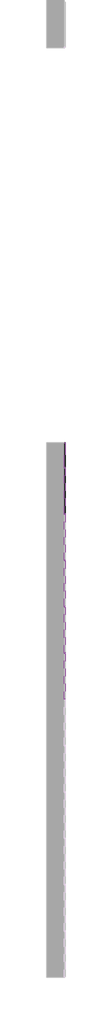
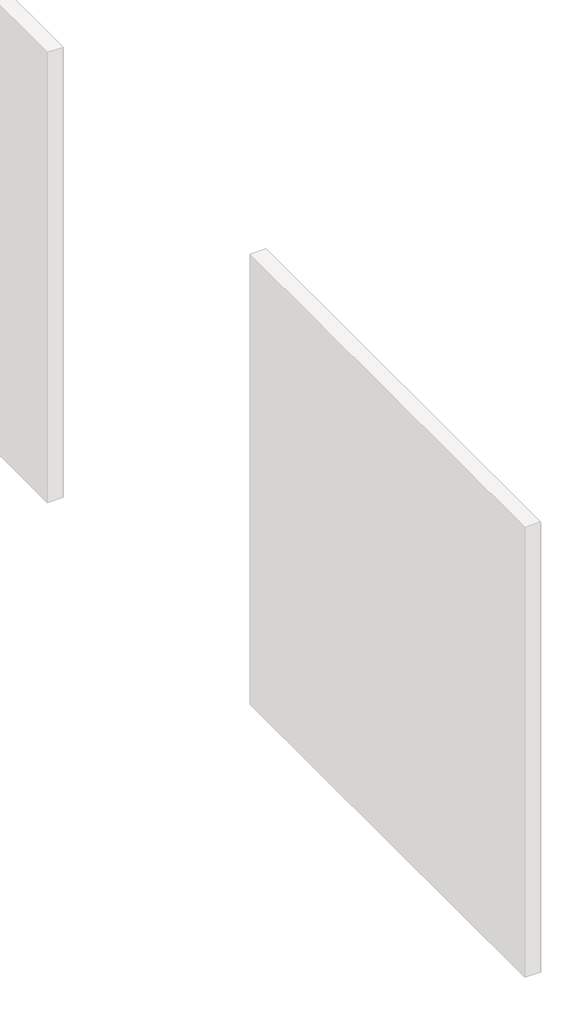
# One storey, part 7 of 45: 113 proxies.
"""IFC4 building model written with IfcOpenShell, lengths in millimetres."""

from ifc_helpers import new_model, si_unit, origin, place, context, project, spatial, transform, mapped, element, save
from components import generic_models_ab0f2c30, generic_models_8a1c671f

model = new_model("IFC4")

# Units and contexts
model_context = context("Model", 3, world=origin())
ifc_project = project(units=[si_unit("LENGTHUNIT", "METRE", prefix="MILLI")], contexts=[model_context])

# Site, building, storey
site = spatial("IfcSite", under=ifc_project)
building = spatial("IfcBuilding", under=site)
storey = spatial("IfcBuildingStorey", under=building, Name="PORTOBELLO - SHOWROOM", Elevation=0.0)

# Proxies
placement = place(None, origin())
generic_models_shape = generic_models_ab0f2c30(model_context)
element("IfcBuildingElementProxy", 1, Name="PBSHOP - HORIZONTES NEW YORK 6,5X23 : NEW YORK DOWNTOWN", ObjectType="PBSHOP - HORIZONTES NEW YORK 6,5X23 : NEW YORK DOWNTOWN", at=placement, inside=storey, context=model_context, shape_type="MappedRepresentation", body=[
    mapped(generic_models_shape, transform((63939.1036979, 8138.0036359, 34.5), x_axis=(0.0, 0.0, 1.0), y_axis=(0.0, -1.0, 0.0), z_axis=(1.0, 0.0, 0.0))),
])
element("IfcBuildingElementProxy", 2, Name="PBSHOP - HORIZONTES NEW YORK 6,5X23 : NEW YORK DOWNTOWN", ObjectType="PBSHOP - HORIZONTES NEW YORK 6,5X23 : NEW YORK DOWNTOWN", at=placement, inside=storey, context=model_context, shape_type="MappedRepresentation", body=[
    mapped(generic_models_shape, transform((63939.1036979, 8138.0036359, 103.5), x_axis=(0.0, 0.0, 1.0), y_axis=(0.0, -1.0, 0.0), z_axis=(1.0, 0.0, 0.0))),
])
element("IfcBuildingElementProxy", 3, Name="PBSHOP - HORIZONTES NEW YORK 6,5X23 : NEW YORK DOWNTOWN", ObjectType="PBSHOP - HORIZONTES NEW YORK 6,5X23 : NEW YORK DOWNTOWN", at=placement, inside=storey, context=model_context, shape_type="MappedRepresentation", body=[
    mapped(generic_models_shape, transform((63939.1036979, 8138.0036359, 172.5), x_axis=(0.0, 0.0, 1.0), y_axis=(0.0, -1.0, 0.0), z_axis=(1.0, 0.0, 0.0))),
])
element("IfcBuildingElementProxy", 4, Name="PBSHOP - HORIZONTES NEW YORK 6,5X23 : NEW YORK DOWNTOWN", ObjectType="PBSHOP - HORIZONTES NEW YORK 6,5X23 : NEW YORK DOWNTOWN", at=placement, inside=storey, context=model_context, shape_type="MappedRepresentation", body=[
    mapped(generic_models_shape, transform((63939.1036979, 8138.0036359, 241.5), x_axis=(0.0, 0.0, 1.0), y_axis=(0.0, -1.0, 0.0), z_axis=(1.0, 0.0, 0.0))),
])
element("IfcBuildingElementProxy", 5, Name="PBSHOP - HORIZONTES NEW YORK 6,5X23 : NEW YORK DOWNTOWN", ObjectType="PBSHOP - HORIZONTES NEW YORK 6,5X23 : NEW YORK DOWNTOWN", at=placement, inside=storey, context=model_context, shape_type="MappedRepresentation", body=[
    mapped(generic_models_shape, transform((63939.1036979, 8138.0036359, 310.5), x_axis=(0.0, 0.0, 1.0), y_axis=(0.0, -1.0, 0.0), z_axis=(1.0, 0.0, 0.0))),
])
element("IfcBuildingElementProxy", 6, Name="PBSHOP - HORIZONTES NEW YORK 6,5X23 : NEW YORK DOWNTOWN", ObjectType="PBSHOP - HORIZONTES NEW YORK 6,5X23 : NEW YORK DOWNTOWN", at=placement, inside=storey, context=model_context, shape_type="MappedRepresentation", body=[
    mapped(generic_models_shape, transform((63939.1036979, 8138.0036359, 379.5), x_axis=(0.0, 0.0, 1.0), y_axis=(0.0, -1.0, 0.0), z_axis=(1.0, 0.0, 0.0))),
])
element("IfcBuildingElementProxy", 7, Name="PBSHOP - HORIZONTES NEW YORK 6,5X23 : NEW YORK DOWNTOWN", ObjectType="PBSHOP - HORIZONTES NEW YORK 6,5X23 : NEW YORK DOWNTOWN", at=placement, inside=storey, context=model_context, shape_type="MappedRepresentation", body=[
    mapped(generic_models_shape, transform((63939.1036979, 8138.0036359, 448.5), x_axis=(0.0, 0.0, 1.0), y_axis=(0.0, -1.0, 0.0), z_axis=(1.0, 0.0, 0.0))),
])
element("IfcBuildingElementProxy", 8, Name="PBSHOP - HORIZONTES NEW YORK 6,5X23 : NEW YORK DOWNTOWN", ObjectType="PBSHOP - HORIZONTES NEW YORK 6,5X23 : NEW YORK DOWNTOWN", at=placement, inside=storey, context=model_context, shape_type="MappedRepresentation", body=[
    mapped(generic_models_shape, transform((63939.1036979, 8138.0036359, 517.5), x_axis=(0.0, 0.0, 1.0), y_axis=(0.0, -1.0, 0.0), z_axis=(1.0, 0.0, 0.0))),
])
element("IfcBuildingElementProxy", 9, Name="PBSHOP - HORIZONTES NEW YORK 6,5X23 : NEW YORK DOWNTOWN", ObjectType="PBSHOP - HORIZONTES NEW YORK 6,5X23 : NEW YORK DOWNTOWN", at=placement, inside=storey, context=model_context, shape_type="MappedRepresentation", body=[
    mapped(generic_models_shape, transform((63939.1036979, 8138.0036359, 586.5), x_axis=(0.0, 0.0, 1.0), y_axis=(0.0, -1.0, 0.0), z_axis=(1.0, 0.0, 0.0))),
])
element("IfcBuildingElementProxy", 10, Name="PBSHOP - HORIZONTES NEW YORK 6,5X23 : NEW YORK DOWNTOWN", ObjectType="PBSHOP - HORIZONTES NEW YORK 6,5X23 : NEW YORK DOWNTOWN", at=placement, inside=storey, context=model_context, shape_type="MappedRepresentation", body=[
    mapped(generic_models_shape, transform((63939.1036979, 8138.0036359, 655.5), x_axis=(0.0, 0.0, 1.0), y_axis=(0.0, -1.0, 0.0), z_axis=(1.0, 0.0, 0.0))),
])
element("IfcBuildingElementProxy", 11, Name="PBSHOP - HORIZONTES NEW YORK 6,5X23 : NEW YORK DOWNTOWN", ObjectType="PBSHOP - HORIZONTES NEW YORK 6,5X23 : NEW YORK DOWNTOWN", at=placement, inside=storey, context=model_context, shape_type="MappedRepresentation", body=[
    mapped(generic_models_shape, transform((63939.1036979, 8138.0036359, 724.5), x_axis=(0.0, 0.0, 1.0), y_axis=(0.0, -1.0, 0.0), z_axis=(1.0, 0.0, 0.0))),
])
element("IfcBuildingElementProxy", 12, Name="PBSHOP - HORIZONTES NEW YORK 6,5X23 : NEW YORK DOWNTOWN", ObjectType="PBSHOP - HORIZONTES NEW YORK 6,5X23 : NEW YORK DOWNTOWN", at=placement, inside=storey, context=model_context, shape_type="MappedRepresentation", body=[
    mapped(generic_models_shape, transform((63939.1036979, 8138.0036359, 793.5), x_axis=(0.0, 0.0, 1.0), y_axis=(0.0, -1.0, 0.0), z_axis=(1.0, 0.0, 0.0))),
])
element("IfcBuildingElementProxy", 13, Name="PBSHOP - HORIZONTES NEW YORK 6,5X23 : NEW YORK DOWNTOWN", ObjectType="PBSHOP - HORIZONTES NEW YORK 6,5X23 : NEW YORK DOWNTOWN", at=placement, inside=storey, context=model_context, shape_type="MappedRepresentation", body=[
    mapped(generic_models_shape, transform((63939.1036979, 8138.0036359, 862.5), x_axis=(0.0, 0.0, 1.0), y_axis=(0.0, -1.0, 0.0), z_axis=(1.0, 0.0, 0.0))),
])
element("IfcBuildingElementProxy", 14, Name="PBSHOP - HORIZONTES NEW YORK 6,5X23 : NEW YORK DOWNTOWN", ObjectType="PBSHOP - HORIZONTES NEW YORK 6,5X23 : NEW YORK DOWNTOWN", at=placement, inside=storey, context=model_context, shape_type="MappedRepresentation", body=[
    mapped(generic_models_shape, transform((63939.1036979, 8138.0036359, 931.5), x_axis=(0.0, 0.0, 1.0), y_axis=(0.0, -1.0, 0.0), z_axis=(1.0, 0.0, 0.0))),
])
element("IfcBuildingElementProxy", 15, Name="PBSHOP - HORIZONTES NEW YORK 6,5X23 : NEW YORK DOWNTOWN", ObjectType="PBSHOP - HORIZONTES NEW YORK 6,5X23 : NEW YORK DOWNTOWN", at=placement, inside=storey, context=model_context, shape_type="MappedRepresentation", body=[
    mapped(generic_models_shape, transform((63939.1036979, 8138.0036359, 1000.5), x_axis=(0.0, 0.0, 1.0), y_axis=(0.0, -1.0, 0.0), z_axis=(1.0, 0.0, 0.0))),
])
element("IfcBuildingElementProxy", 16, Name="PBSHOP - HORIZONTES NEW YORK 6,5X23 : NEW YORK DOWNTOWN", ObjectType="PBSHOP - HORIZONTES NEW YORK 6,5X23 : NEW YORK DOWNTOWN", at=placement, inside=storey, context=model_context, shape_type="MappedRepresentation", body=[
    mapped(generic_models_shape, transform((63939.1036979, 8138.0036359, 1069.5), x_axis=(0.0, 0.0, 1.0), y_axis=(0.0, -1.0, 0.0), z_axis=(1.0, 0.0, 0.0))),
])
element("IfcBuildingElementProxy", 17, Name="PBSHOP - HORIZONTES NEW YORK 6,5X23 : NEW YORK DOWNTOWN", ObjectType="PBSHOP - HORIZONTES NEW YORK 6,5X23 : NEW YORK DOWNTOWN", at=placement, inside=storey, context=model_context, shape_type="MappedRepresentation", body=[
    mapped(generic_models_shape, transform((63939.1036979, 8138.0036359, 1138.5), x_axis=(0.0, 0.0, 1.0), y_axis=(0.0, -1.0, 0.0), z_axis=(1.0, 0.0, 0.0))),
])
element("IfcBuildingElementProxy", 18, Name="PBSHOP - HORIZONTES NEW YORK 6,5X23 : NEW YORK DOWNTOWN", ObjectType="PBSHOP - HORIZONTES NEW YORK 6,5X23 : NEW YORK DOWNTOWN", at=placement, inside=storey, context=model_context, shape_type="MappedRepresentation", body=[
    mapped(generic_models_shape, transform((63939.1036979, 8138.0036359, 1207.5), x_axis=(0.0, 0.0, 1.0), y_axis=(0.0, -1.0, 0.0), z_axis=(1.0, 0.0, 0.0))),
])
element("IfcBuildingElementProxy", 19, Name="PBSHOP - HORIZONTES NEW YORK 6,5X23 : NEW YORK DOWNTOWN", ObjectType="PBSHOP - HORIZONTES NEW YORK 6,5X23 : NEW YORK DOWNTOWN", at=placement, inside=storey, context=model_context, shape_type="MappedRepresentation", body=[
    mapped(generic_models_shape, transform((63939.1036979, 8138.0036359, 1276.5), x_axis=(0.0, 0.0, 1.0), y_axis=(0.0, -1.0, 0.0), z_axis=(1.0, 0.0, 0.0))),
])
element("IfcBuildingElementProxy", 20, Name="PBSHOP - HORIZONTES NEW YORK 6,5X23 : NEW YORK DOWNTOWN", ObjectType="PBSHOP - HORIZONTES NEW YORK 6,5X23 : NEW YORK DOWNTOWN", at=placement, inside=storey, context=model_context, shape_type="MappedRepresentation", body=[
    mapped(generic_models_shape, transform((63939.1036979, 8138.0036359, 1345.5), x_axis=(0.0, 0.0, 1.0), y_axis=(0.0, -1.0, 0.0), z_axis=(1.0, 0.0, 0.0))),
])
element("IfcBuildingElementProxy", 21, Name="PBSHOP - HORIZONTES NEW YORK 6,5X23 : NEW YORK DOWNTOWN", ObjectType="PBSHOP - HORIZONTES NEW YORK 6,5X23 : NEW YORK DOWNTOWN", at=placement, inside=storey, context=model_context, shape_type="MappedRepresentation", body=[
    mapped(generic_models_shape, transform((63939.1036979, 8138.0036359, 1414.5), x_axis=(0.0, 0.0, 1.0), y_axis=(0.0, -1.0, 0.0), z_axis=(1.0, 0.0, 0.0))),
])
element("IfcBuildingElementProxy", 22, Name="PBSHOP - HORIZONTES NEW YORK 6,5X23 : NEW YORK DOWNTOWN", ObjectType="PBSHOP - HORIZONTES NEW YORK 6,5X23 : NEW YORK DOWNTOWN", at=placement, inside=storey, context=model_context, shape_type="MappedRepresentation", body=[
    mapped(generic_models_shape, transform((63939.1036979, 8138.0036359, 1483.5), x_axis=(0.0, 0.0, 1.0), y_axis=(0.0, -1.0, 0.0), z_axis=(1.0, 0.0, 0.0))),
])
element("IfcBuildingElementProxy", 23, Name="PBSHOP - HORIZONTES NEW YORK 6,5X23 : NEW YORK DOWNTOWN", ObjectType="PBSHOP - HORIZONTES NEW YORK 6,5X23 : NEW YORK DOWNTOWN", at=placement, inside=storey, context=model_context, shape_type="MappedRepresentation", body=[
    mapped(generic_models_shape, transform((63939.1036979, 8138.0036359, 1552.5), x_axis=(0.0, 0.0, 1.0), y_axis=(0.0, -1.0, 0.0), z_axis=(1.0, 0.0, 0.0))),
])
element("IfcBuildingElementProxy", 24, Name="PBSHOP - HORIZONTES NEW YORK 6,5X23 : NEW YORK DOWNTOWN", ObjectType="PBSHOP - HORIZONTES NEW YORK 6,5X23 : NEW YORK DOWNTOWN", at=placement, inside=storey, context=model_context, shape_type="MappedRepresentation", body=[
    mapped(generic_models_shape, transform((63939.1036979, 8138.0036359, 1621.5), x_axis=(0.0, 0.0, 1.0), y_axis=(0.0, -1.0, 0.0), z_axis=(1.0, 0.0, 0.0))),
])
element("IfcBuildingElementProxy", 25, Name="PBSHOP - HORIZONTES NEW YORK 6,5X23 : NEW YORK DOWNTOWN", ObjectType="PBSHOP - HORIZONTES NEW YORK 6,5X23 : NEW YORK DOWNTOWN", at=placement, inside=storey, context=model_context, shape_type="MappedRepresentation", body=[
    mapped(generic_models_shape, transform((63939.1036979, 8138.0036359, 1690.5), x_axis=(0.0, 0.0, 1.0), y_axis=(0.0, -1.0, 0.0), z_axis=(1.0, 0.0, 0.0))),
])
element("IfcBuildingElementProxy", 26, Name="PBSHOP - HORIZONTES NEW YORK 6,5X23 : NEW YORK DOWNTOWN", ObjectType="PBSHOP - HORIZONTES NEW YORK 6,5X23 : NEW YORK DOWNTOWN", at=placement, inside=storey, context=model_context, shape_type="MappedRepresentation", body=[
    mapped(generic_models_shape, transform((63939.1036979, 8138.0036359, 1759.5), x_axis=(0.0, 0.0, 1.0), y_axis=(0.0, -1.0, 0.0), z_axis=(1.0, 0.0, 0.0))),
])
element("IfcBuildingElementProxy", 27, Name="PBSHOP - HORIZONTES NEW YORK 6,5X23 : NEW YORK DOWNTOWN", ObjectType="PBSHOP - HORIZONTES NEW YORK 6,5X23 : NEW YORK DOWNTOWN", at=placement, inside=storey, context=model_context, shape_type="MappedRepresentation", body=[
    mapped(generic_models_shape, transform((63939.1036979, 8138.0036359, 1828.5), x_axis=(0.0, 0.0, 1.0), y_axis=(0.0, -1.0, 0.0), z_axis=(1.0, 0.0, 0.0))),
])
element("IfcBuildingElementProxy", 28, Name="PBSHOP - HORIZONTES NEW YORK 6,5X23 : NEW YORK DOWNTOWN", ObjectType="PBSHOP - HORIZONTES NEW YORK 6,5X23 : NEW YORK DOWNTOWN", at=placement, inside=storey, context=model_context, shape_type="MappedRepresentation", body=[
    mapped(generic_models_shape, transform((63939.1036979, 8138.0036359, 1897.5), x_axis=(0.0, 0.0, 1.0), y_axis=(0.0, -1.0, 0.0), z_axis=(1.0, 0.0, 0.0))),
])
element("IfcBuildingElementProxy", 29, Name="PBSHOP - HORIZONTES NEW YORK 6,5X23 : NEW YORK DOWNTOWN", ObjectType="PBSHOP - HORIZONTES NEW YORK 6,5X23 : NEW YORK DOWNTOWN", at=placement, inside=storey, context=model_context, shape_type="MappedRepresentation", body=[
    mapped(generic_models_shape, transform((63939.1036979, 8138.0036359, 1966.5), x_axis=(0.0, 0.0, 1.0), y_axis=(0.0, -1.0, 0.0), z_axis=(1.0, 0.0, 0.0))),
])
element("IfcBuildingElementProxy", 30, Name="PBSHOP - HORIZONTES NEW YORK 6,5X23 : NEW YORK DOWNTOWN", ObjectType="PBSHOP - HORIZONTES NEW YORK 6,5X23 : NEW YORK DOWNTOWN", at=placement, inside=storey, context=model_context, shape_type="MappedRepresentation", body=[
    mapped(generic_models_shape, transform((63939.1036979, 8138.0036359, 2035.5), x_axis=(0.0, 0.0, 1.0), y_axis=(0.0, -1.0, 0.0), z_axis=(1.0, 0.0, 0.0))),
])
element("IfcBuildingElementProxy", 31, Name="PBSHOP - HORIZONTES NEW YORK 6,5X23 : NEW YORK DOWNTOWN", ObjectType="PBSHOP - HORIZONTES NEW YORK 6,5X23 : NEW YORK DOWNTOWN", at=placement, inside=storey, context=model_context, shape_type="MappedRepresentation", body=[
    mapped(generic_models_shape, transform((63939.1036979, 7436.0036359, 2104.5), x_axis=(0.0, 0.0, 1.0), y_axis=(0.0, -1.0, 0.0), z_axis=(1.0, 0.0, 0.0))),
])
element("IfcBuildingElementProxy", 32, Name="PBSHOP - HORIZONTES NEW YORK 6,5X23 : NEW YORK DOWNTOWN", ObjectType="PBSHOP - HORIZONTES NEW YORK 6,5X23 : NEW YORK DOWNTOWN", at=placement, inside=storey, context=model_context, shape_type="MappedRepresentation", body=[
    mapped(generic_models_shape, transform((63939.1036979, 7670.0036359, 2104.5), x_axis=(0.0, 0.0, 1.0), y_axis=(0.0, -1.0, 0.0), z_axis=(1.0, 0.0, 0.0))),
])
element("IfcBuildingElementProxy", 33, Name="PBSHOP - HORIZONTES NEW YORK 6,5X23 : NEW YORK DOWNTOWN", ObjectType="PBSHOP - HORIZONTES NEW YORK 6,5X23 : NEW YORK DOWNTOWN", at=placement, inside=storey, context=model_context, shape_type="MappedRepresentation", body=[
    mapped(generic_models_shape, transform((63939.1036979, 7904.0036359, 2104.5), x_axis=(0.0, 0.0, 1.0), y_axis=(0.0, -1.0, 0.0), z_axis=(1.0, 0.0, 0.0))),
])
element("IfcBuildingElementProxy", 34, Name="PBSHOP - HORIZONTES NEW YORK 6,5X23 : NEW YORK DOWNTOWN", ObjectType="PBSHOP - HORIZONTES NEW YORK 6,5X23 : NEW YORK DOWNTOWN", at=placement, inside=storey, context=model_context, shape_type="MappedRepresentation", body=[
    mapped(generic_models_shape, transform((63939.1036979, 8138.0036359, 2104.5), x_axis=(0.0, 0.0, 1.0), y_axis=(0.0, -1.0, 0.0), z_axis=(1.0, 0.0, 0.0))),
])
element("IfcBuildingElementProxy", 35, Name="PBSHOP - HORIZONTES NEW YORK 6,5X23 : NEW YORK DOWNTOWN", ObjectType="PBSHOP - HORIZONTES NEW YORK 6,5X23 : NEW YORK DOWNTOWN", at=placement, inside=storey, context=model_context, shape_type="MappedRepresentation", body=[
    mapped(generic_models_shape, transform((63939.1036979, 7202.0036359, 2173.5), x_axis=(0.0, 0.0, 1.0), y_axis=(0.0, -1.0, 0.0), z_axis=(1.0, 0.0, 0.0))),
])
element("IfcBuildingElementProxy", 36, Name="PBSHOP - HORIZONTES NEW YORK 6,5X23 : NEW YORK DOWNTOWN", ObjectType="PBSHOP - HORIZONTES NEW YORK 6,5X23 : NEW YORK DOWNTOWN", at=placement, inside=storey, context=model_context, shape_type="MappedRepresentation", body=[
    mapped(generic_models_shape, transform((63939.1036979, 7436.0036359, 2173.5), x_axis=(0.0, 0.0, 1.0), y_axis=(0.0, -1.0, 0.0), z_axis=(1.0, 0.0, 0.0))),
])
element("IfcBuildingElementProxy", 37, Name="PBSHOP - HORIZONTES NEW YORK 6,5X23 : NEW YORK DOWNTOWN", ObjectType="PBSHOP - HORIZONTES NEW YORK 6,5X23 : NEW YORK DOWNTOWN", at=placement, inside=storey, context=model_context, shape_type="MappedRepresentation", body=[
    mapped(generic_models_shape, transform((63939.1036979, 7670.0036359, 2173.5), x_axis=(0.0, 0.0, 1.0), y_axis=(0.0, -1.0, 0.0), z_axis=(1.0, 0.0, 0.0))),
])
element("IfcBuildingElementProxy", 38, Name="PBSHOP - HORIZONTES NEW YORK 6,5X23 : NEW YORK DOWNTOWN", ObjectType="PBSHOP - HORIZONTES NEW YORK 6,5X23 : NEW YORK DOWNTOWN", at=placement, inside=storey, context=model_context, shape_type="MappedRepresentation", body=[
    mapped(generic_models_shape, transform((63939.1036979, 7904.0036359, 2173.5), x_axis=(0.0, 0.0, 1.0), y_axis=(0.0, -1.0, 0.0), z_axis=(1.0, 0.0, 0.0))),
])
element("IfcBuildingElementProxy", 39, Name="PBSHOP - HORIZONTES NEW YORK 6,5X23 : NEW YORK DOWNTOWN", ObjectType="PBSHOP - HORIZONTES NEW YORK 6,5X23 : NEW YORK DOWNTOWN", at=placement, inside=storey, context=model_context, shape_type="MappedRepresentation", body=[
    mapped(generic_models_shape, transform((63939.1036979, 8138.0036359, 2173.5), x_axis=(0.0, 0.0, 1.0), y_axis=(0.0, -1.0, 0.0), z_axis=(1.0, 0.0, 0.0))),
])
element("IfcBuildingElementProxy", 40, Name="PBSHOP - HORIZONTES NEW YORK 6,5X23 : NEW YORK DOWNTOWN", ObjectType="PBSHOP - HORIZONTES NEW YORK 6,5X23 : NEW YORK DOWNTOWN", at=placement, inside=storey, context=model_context, shape_type="MappedRepresentation", body=[
    mapped(generic_models_shape, transform((63939.1036979, 7202.0036359, 2242.5), x_axis=(0.0, 0.0, 1.0), y_axis=(0.0, -1.0, 0.0), z_axis=(1.0, 0.0, 0.0))),
])
element("IfcBuildingElementProxy", 41, Name="PBSHOP - HORIZONTES NEW YORK 6,5X23 : NEW YORK DOWNTOWN", ObjectType="PBSHOP - HORIZONTES NEW YORK 6,5X23 : NEW YORK DOWNTOWN", at=placement, inside=storey, context=model_context, shape_type="MappedRepresentation", body=[
    mapped(generic_models_shape, transform((63939.1036979, 7436.0036359, 2242.5), x_axis=(0.0, 0.0, 1.0), y_axis=(0.0, -1.0, 0.0), z_axis=(1.0, 0.0, 0.0))),
])
element("IfcBuildingElementProxy", 42, Name="PBSHOP - HORIZONTES NEW YORK 6,5X23 : NEW YORK DOWNTOWN", ObjectType="PBSHOP - HORIZONTES NEW YORK 6,5X23 : NEW YORK DOWNTOWN", at=placement, inside=storey, context=model_context, shape_type="MappedRepresentation", body=[
    mapped(generic_models_shape, transform((63939.1036979, 7670.0036359, 2242.5), x_axis=(0.0, 0.0, 1.0), y_axis=(0.0, -1.0, 0.0), z_axis=(1.0, 0.0, 0.0))),
])
element("IfcBuildingElementProxy", 43, Name="PBSHOP - HORIZONTES NEW YORK 6,5X23 : NEW YORK DOWNTOWN", ObjectType="PBSHOP - HORIZONTES NEW YORK 6,5X23 : NEW YORK DOWNTOWN", at=placement, inside=storey, context=model_context, shape_type="MappedRepresentation", body=[
    mapped(generic_models_shape, transform((63939.1036979, 7904.0036359, 2242.5), x_axis=(0.0, 0.0, 1.0), y_axis=(0.0, -1.0, 0.0), z_axis=(1.0, 0.0, 0.0))),
])
element("IfcBuildingElementProxy", 44, Name="PBSHOP - HORIZONTES NEW YORK 6,5X23 : NEW YORK DOWNTOWN", ObjectType="PBSHOP - HORIZONTES NEW YORK 6,5X23 : NEW YORK DOWNTOWN", at=placement, inside=storey, context=model_context, shape_type="MappedRepresentation", body=[
    mapped(generic_models_shape, transform((63939.1036979, 8138.0036359, 2242.5), x_axis=(0.0, 0.0, 1.0), y_axis=(0.0, -1.0, 0.0), z_axis=(1.0, 0.0, 0.0))),
])
element("IfcBuildingElementProxy", 45, Name="PBSHOP - HORIZONTES NEW YORK 6,5X23 : NEW YORK DOWNTOWN", ObjectType="PBSHOP - HORIZONTES NEW YORK 6,5X23 : NEW YORK DOWNTOWN", at=placement, inside=storey, context=model_context, shape_type="MappedRepresentation", body=[
    mapped(generic_models_shape, transform((63939.1036979, 7202.0036359, 2311.5), x_axis=(0.0, 0.0, 1.0), y_axis=(0.0, -1.0, 0.0), z_axis=(1.0, 0.0, 0.0))),
])
element("IfcBuildingElementProxy", 46, Name="PBSHOP - HORIZONTES NEW YORK 6,5X23 : NEW YORK DOWNTOWN", ObjectType="PBSHOP - HORIZONTES NEW YORK 6,5X23 : NEW YORK DOWNTOWN", at=placement, inside=storey, context=model_context, shape_type="MappedRepresentation", body=[
    mapped(generic_models_shape, transform((63939.1036979, 7436.0036359, 2311.5), x_axis=(0.0, 0.0, 1.0), y_axis=(0.0, -1.0, 0.0), z_axis=(1.0, 0.0, 0.0))),
])
element("IfcBuildingElementProxy", 47, Name="PBSHOP - HORIZONTES NEW YORK 6,5X23 : NEW YORK DOWNTOWN", ObjectType="PBSHOP - HORIZONTES NEW YORK 6,5X23 : NEW YORK DOWNTOWN", at=placement, inside=storey, context=model_context, shape_type="MappedRepresentation", body=[
    mapped(generic_models_shape, transform((63939.1036979, 7670.0036359, 2311.5), x_axis=(0.0, 0.0, 1.0), y_axis=(0.0, -1.0, 0.0), z_axis=(1.0, 0.0, 0.0))),
])
element("IfcBuildingElementProxy", 48, Name="PBSHOP - HORIZONTES NEW YORK 6,5X23 : NEW YORK DOWNTOWN", ObjectType="PBSHOP - HORIZONTES NEW YORK 6,5X23 : NEW YORK DOWNTOWN", at=placement, inside=storey, context=model_context, shape_type="MappedRepresentation", body=[
    mapped(generic_models_shape, transform((63939.1036979, 7904.0036359, 2311.5), x_axis=(0.0, 0.0, 1.0), y_axis=(0.0, -1.0, 0.0), z_axis=(1.0, 0.0, 0.0))),
])
element("IfcBuildingElementProxy", 49, Name="PBSHOP - HORIZONTES NEW YORK 6,5X23 : NEW YORK DOWNTOWN", ObjectType="PBSHOP - HORIZONTES NEW YORK 6,5X23 : NEW YORK DOWNTOWN", at=placement, inside=storey, context=model_context, shape_type="MappedRepresentation", body=[
    mapped(generic_models_shape, transform((63939.1036979, 8138.0036359, 2311.5), x_axis=(0.0, 0.0, 1.0), y_axis=(0.0, -1.0, 0.0), z_axis=(1.0, 0.0, 0.0))),
])
element("IfcBuildingElementProxy", 50, Name="PBSHOP - HORIZONTES NEW YORK 6,5X23 : NEW YORK DOWNTOWN", ObjectType="PBSHOP - HORIZONTES NEW YORK 6,5X23 : NEW YORK DOWNTOWN", at=placement, inside=storey, context=model_context, shape_type="MappedRepresentation", body=[
    mapped(generic_models_shape, transform((63939.1036979, 7202.0036359, 2380.5), x_axis=(0.0, 0.0, 1.0), y_axis=(0.0, -1.0, 0.0), z_axis=(1.0, 0.0, 0.0))),
])
element("IfcBuildingElementProxy", 51, Name="PBSHOP - HORIZONTES NEW YORK 6,5X23 : NEW YORK DOWNTOWN", ObjectType="PBSHOP - HORIZONTES NEW YORK 6,5X23 : NEW YORK DOWNTOWN", at=placement, inside=storey, context=model_context, shape_type="MappedRepresentation", body=[
    mapped(generic_models_shape, transform((63939.1036979, 7436.0036359, 2380.5), x_axis=(0.0, 0.0, 1.0), y_axis=(0.0, -1.0, 0.0), z_axis=(1.0, 0.0, 0.0))),
])
element("IfcBuildingElementProxy", 52, Name="PBSHOP - HORIZONTES NEW YORK 6,5X23 : NEW YORK DOWNTOWN", ObjectType="PBSHOP - HORIZONTES NEW YORK 6,5X23 : NEW YORK DOWNTOWN", at=placement, inside=storey, context=model_context, shape_type="MappedRepresentation", body=[
    mapped(generic_models_shape, transform((63939.1036979, 7670.0036359, 2380.5), x_axis=(0.0, 0.0, 1.0), y_axis=(0.0, -1.0, 0.0), z_axis=(1.0, 0.0, 0.0))),
])
element("IfcBuildingElementProxy", 53, Name="PBSHOP - HORIZONTES NEW YORK 6,5X23 : NEW YORK DOWNTOWN", ObjectType="PBSHOP - HORIZONTES NEW YORK 6,5X23 : NEW YORK DOWNTOWN", at=placement, inside=storey, context=model_context, shape_type="MappedRepresentation", body=[
    mapped(generic_models_shape, transform((63939.1036979, 7904.0036359, 2380.5), x_axis=(0.0, 0.0, 1.0), y_axis=(0.0, -1.0, 0.0), z_axis=(1.0, 0.0, 0.0))),
])
element("IfcBuildingElementProxy", 54, Name="PBSHOP - HORIZONTES NEW YORK 6,5X23 : NEW YORK DOWNTOWN", ObjectType="PBSHOP - HORIZONTES NEW YORK 6,5X23 : NEW YORK DOWNTOWN", at=placement, inside=storey, context=model_context, shape_type="MappedRepresentation", body=[
    mapped(generic_models_shape, transform((63939.1036979, 8138.0036359, 2380.5), x_axis=(0.0, 0.0, 1.0), y_axis=(0.0, -1.0, 0.0), z_axis=(1.0, 0.0, 0.0))),
])
element("IfcBuildingElementProxy", 55, Name="PBSHOP - HORIZONTES NEW YORK 6,5X23 : NEW YORK DOWNTOWN", ObjectType="PBSHOP - HORIZONTES NEW YORK 6,5X23 : NEW YORK DOWNTOWN", at=placement, inside=storey, context=model_context, shape_type="MappedRepresentation", body=[
    mapped(generic_models_shape, transform((63939.1036979, 7202.0036359, 2449.5), x_axis=(0.0, 0.0, 1.0), y_axis=(0.0, -1.0, 0.0), z_axis=(1.0, 0.0, 0.0))),
])
element("IfcBuildingElementProxy", 56, Name="PBSHOP - HORIZONTES NEW YORK 6,5X23 : NEW YORK DOWNTOWN", ObjectType="PBSHOP - HORIZONTES NEW YORK 6,5X23 : NEW YORK DOWNTOWN", at=placement, inside=storey, context=model_context, shape_type="MappedRepresentation", body=[
    mapped(generic_models_shape, transform((63939.1036979, 7436.0036359, 2449.5), x_axis=(0.0, 0.0, 1.0), y_axis=(0.0, -1.0, 0.0), z_axis=(1.0, 0.0, 0.0))),
])
element("IfcBuildingElementProxy", 57, Name="PBSHOP - HORIZONTES NEW YORK 6,5X23 : NEW YORK DOWNTOWN", ObjectType="PBSHOP - HORIZONTES NEW YORK 6,5X23 : NEW YORK DOWNTOWN", at=placement, inside=storey, context=model_context, shape_type="MappedRepresentation", body=[
    mapped(generic_models_shape, transform((63939.1036979, 7670.0036359, 2449.5), x_axis=(0.0, 0.0, 1.0), y_axis=(0.0, -1.0, 0.0), z_axis=(1.0, 0.0, 0.0))),
])
element("IfcBuildingElementProxy", 58, Name="PBSHOP - HORIZONTES NEW YORK 6,5X23 : NEW YORK DOWNTOWN", ObjectType="PBSHOP - HORIZONTES NEW YORK 6,5X23 : NEW YORK DOWNTOWN", at=placement, inside=storey, context=model_context, shape_type="MappedRepresentation", body=[
    mapped(generic_models_shape, transform((63939.1036979, 7904.0036359, 2449.5), x_axis=(0.0, 0.0, 1.0), y_axis=(0.0, -1.0, 0.0), z_axis=(1.0, 0.0, 0.0))),
])
element("IfcBuildingElementProxy", 59, Name="PBSHOP - HORIZONTES NEW YORK 6,5X23 : NEW YORK DOWNTOWN", ObjectType="PBSHOP - HORIZONTES NEW YORK 6,5X23 : NEW YORK DOWNTOWN", at=placement, inside=storey, context=model_context, shape_type="MappedRepresentation", body=[
    mapped(generic_models_shape, transform((63939.1036979, 8138.0036359, 2449.5), x_axis=(0.0, 0.0, 1.0), y_axis=(0.0, -1.0, 0.0), z_axis=(1.0, 0.0, 0.0))),
])
element("IfcBuildingElementProxy", 60, Name="PBSHOP - HORIZONTES NEW YORK 6,5X23 : NEW YORK DOWNTOWN", ObjectType="PBSHOP - HORIZONTES NEW YORK 6,5X23 : NEW YORK DOWNTOWN", at=placement, inside=storey, context=model_context, shape_type="MappedRepresentation", body=[
    mapped(generic_models_shape, transform((63939.1036979, 7202.0036359, 2518.5), x_axis=(0.0, 0.0, 1.0), y_axis=(0.0, -1.0, 0.0), z_axis=(1.0, 0.0, 0.0))),
])
element("IfcBuildingElementProxy", 61, Name="PBSHOP - HORIZONTES NEW YORK 6,5X23 : NEW YORK DOWNTOWN", ObjectType="PBSHOP - HORIZONTES NEW YORK 6,5X23 : NEW YORK DOWNTOWN", at=placement, inside=storey, context=model_context, shape_type="MappedRepresentation", body=[
    mapped(generic_models_shape, transform((63939.1036979, 7436.0036359, 2518.5), x_axis=(0.0, 0.0, 1.0), y_axis=(0.0, -1.0, 0.0), z_axis=(1.0, 0.0, 0.0))),
])
element("IfcBuildingElementProxy", 62, Name="PBSHOP - HORIZONTES NEW YORK 6,5X23 : NEW YORK DOWNTOWN", ObjectType="PBSHOP - HORIZONTES NEW YORK 6,5X23 : NEW YORK DOWNTOWN", at=placement, inside=storey, context=model_context, shape_type="MappedRepresentation", body=[
    mapped(generic_models_shape, transform((63939.1036979, 7670.0036359, 2518.5), x_axis=(0.0, 0.0, 1.0), y_axis=(0.0, -1.0, 0.0), z_axis=(1.0, 0.0, 0.0))),
])
element("IfcBuildingElementProxy", 63, Name="PBSHOP - HORIZONTES NEW YORK 6,5X23 : NEW YORK DOWNTOWN", ObjectType="PBSHOP - HORIZONTES NEW YORK 6,5X23 : NEW YORK DOWNTOWN", at=placement, inside=storey, context=model_context, shape_type="MappedRepresentation", body=[
    mapped(generic_models_shape, transform((63939.1036979, 7904.0036359, 2518.5), x_axis=(0.0, 0.0, 1.0), y_axis=(0.0, -1.0, 0.0), z_axis=(1.0, 0.0, 0.0))),
])
element("IfcBuildingElementProxy", 64, Name="PBSHOP - HORIZONTES NEW YORK 6,5X23 : NEW YORK DOWNTOWN", ObjectType="PBSHOP - HORIZONTES NEW YORK 6,5X23 : NEW YORK DOWNTOWN", at=placement, inside=storey, context=model_context, shape_type="MappedRepresentation", body=[
    mapped(generic_models_shape, transform((63939.1036979, 8138.0036359, 2518.5), x_axis=(0.0, 0.0, 1.0), y_axis=(0.0, -1.0, 0.0), z_axis=(1.0, 0.0, 0.0))),
])
element("IfcBuildingElementProxy", 65, Name="PBSHOP - HORIZONTES NEW YORK 6,5X23 : NEW YORK DOWNTOWN", ObjectType="PBSHOP - HORIZONTES NEW YORK 6,5X23 : NEW YORK DOWNTOWN", at=placement, inside=storey, context=model_context, shape_type="MappedRepresentation", body=[
    mapped(generic_models_shape, transform((63939.1036979, 7202.0036359, 2587.5), x_axis=(0.0, 0.0, 1.0), y_axis=(0.0, -1.0, 0.0), z_axis=(1.0, 0.0, 0.0))),
])
element("IfcBuildingElementProxy", 66, Name="PBSHOP - HORIZONTES NEW YORK 6,5X23 : NEW YORK DOWNTOWN", ObjectType="PBSHOP - HORIZONTES NEW YORK 6,5X23 : NEW YORK DOWNTOWN", at=placement, inside=storey, context=model_context, shape_type="MappedRepresentation", body=[
    mapped(generic_models_shape, transform((63939.1036979, 7436.0036359, 2587.5), x_axis=(0.0, 0.0, 1.0), y_axis=(0.0, -1.0, 0.0), z_axis=(1.0, 0.0, 0.0))),
])
element("IfcBuildingElementProxy", 67, Name="PBSHOP - HORIZONTES NEW YORK 6,5X23 : NEW YORK DOWNTOWN", ObjectType="PBSHOP - HORIZONTES NEW YORK 6,5X23 : NEW YORK DOWNTOWN", at=placement, inside=storey, context=model_context, shape_type="MappedRepresentation", body=[
    mapped(generic_models_shape, transform((63939.1036979, 7670.0036359, 2587.5), x_axis=(0.0, 0.0, 1.0), y_axis=(0.0, -1.0, 0.0), z_axis=(1.0, 0.0, 0.0))),
])
element("IfcBuildingElementProxy", 68, Name="PBSHOP - HORIZONTES NEW YORK 6,5X23 : NEW YORK DOWNTOWN", ObjectType="PBSHOP - HORIZONTES NEW YORK 6,5X23 : NEW YORK DOWNTOWN", at=placement, inside=storey, context=model_context, shape_type="MappedRepresentation", body=[
    mapped(generic_models_shape, transform((63939.1036979, 7904.0036359, 2587.5), x_axis=(0.0, 0.0, 1.0), y_axis=(0.0, -1.0, 0.0), z_axis=(1.0, 0.0, 0.0))),
])
element("IfcBuildingElementProxy", 69, Name="PBSHOP - HORIZONTES NEW YORK 6,5X23 : NEW YORK DOWNTOWN", ObjectType="PBSHOP - HORIZONTES NEW YORK 6,5X23 : NEW YORK DOWNTOWN", at=placement, inside=storey, context=model_context, shape_type="MappedRepresentation", body=[
    mapped(generic_models_shape, transform((63939.1036979, 8138.0036359, 2587.5), x_axis=(0.0, 0.0, 1.0), y_axis=(0.0, -1.0, 0.0), z_axis=(1.0, 0.0, 0.0))),
])
element("IfcBuildingElementProxy", 70, Name="PBSHOP - HORIZONTES NEW YORK 6,5X23 : NEW YORK DOWNTOWN", ObjectType="PBSHOP - HORIZONTES NEW YORK 6,5X23 : NEW YORK DOWNTOWN", at=placement, inside=storey, context=model_context, shape_type="MappedRepresentation", body=[
    mapped(generic_models_shape, transform((63939.1036979, 7202.0036359, 2656.5), x_axis=(0.0, 0.0, 1.0), y_axis=(0.0, -1.0, 0.0), z_axis=(1.0, 0.0, 0.0))),
])
element("IfcBuildingElementProxy", 71, Name="PBSHOP - HORIZONTES NEW YORK 6,5X23 : NEW YORK DOWNTOWN", ObjectType="PBSHOP - HORIZONTES NEW YORK 6,5X23 : NEW YORK DOWNTOWN", at=placement, inside=storey, context=model_context, shape_type="MappedRepresentation", body=[
    mapped(generic_models_shape, transform((63939.1036979, 7436.0036359, 2656.5), x_axis=(0.0, 0.0, 1.0), y_axis=(0.0, -1.0, 0.0), z_axis=(1.0, 0.0, 0.0))),
])
element("IfcBuildingElementProxy", 72, Name="PBSHOP - HORIZONTES NEW YORK 6,5X23 : NEW YORK DOWNTOWN", ObjectType="PBSHOP - HORIZONTES NEW YORK 6,5X23 : NEW YORK DOWNTOWN", at=placement, inside=storey, context=model_context, shape_type="MappedRepresentation", body=[
    mapped(generic_models_shape, transform((63939.1036979, 7670.0036359, 2656.5), x_axis=(0.0, 0.0, 1.0), y_axis=(0.0, -1.0, 0.0), z_axis=(1.0, 0.0, 0.0))),
])
element("IfcBuildingElementProxy", 73, Name="PBSHOP - HORIZONTES NEW YORK 6,5X23 : NEW YORK DOWNTOWN", ObjectType="PBSHOP - HORIZONTES NEW YORK 6,5X23 : NEW YORK DOWNTOWN", at=placement, inside=storey, context=model_context, shape_type="MappedRepresentation", body=[
    mapped(generic_models_shape, transform((63939.1036979, 7904.0036359, 2656.5), x_axis=(0.0, 0.0, 1.0), y_axis=(0.0, -1.0, 0.0), z_axis=(1.0, 0.0, 0.0))),
])
element("IfcBuildingElementProxy", 74, Name="PBSHOP - HORIZONTES NEW YORK 6,5X23 : NEW YORK DOWNTOWN", ObjectType="PBSHOP - HORIZONTES NEW YORK 6,5X23 : NEW YORK DOWNTOWN", at=placement, inside=storey, context=model_context, shape_type="MappedRepresentation", body=[
    mapped(generic_models_shape, transform((63939.1036979, 8138.0036359, 2656.5), x_axis=(0.0, 0.0, 1.0), y_axis=(0.0, -1.0, 0.0), z_axis=(1.0, 0.0, 0.0))),
])
generic_models_2_shape = generic_models_8a1c671f(model_context)
element("IfcBuildingElementProxy", 75, Name="PBSHOP - HORIZONTES NEW YORK 6,5X23 : NEW YORK DOWNTOWN", ObjectType="PBSHOP - HORIZONTES NEW YORK 6,5X23 : NEW YORK DOWNTOWN", at=placement, inside=storey, context=model_context, shape_type="MappedRepresentation", body=[
    mapped(generic_models_2_shape, transform((63939.1036979, 8372.0036359, 34.5), x_axis=(0.0, 0.0, 1.0), y_axis=(0.0, -1.0, 0.0), z_axis=(1.0, 0.0, 0.0))),
])
element("IfcBuildingElementProxy", 76, Name="PBSHOP - HORIZONTES NEW YORK 6,5X23 : NEW YORK DOWNTOWN", ObjectType="PBSHOP - HORIZONTES NEW YORK 6,5X23 : NEW YORK DOWNTOWN", at=placement, inside=storey, context=model_context, shape_type="MappedRepresentation", body=[
    mapped(generic_models_2_shape, transform((63939.1036979, 8372.0036359, 103.5), x_axis=(0.0, 0.0, 1.0), y_axis=(0.0, -1.0, 0.0), z_axis=(1.0, 0.0, 0.0))),
])
element("IfcBuildingElementProxy", 77, Name="PBSHOP - HORIZONTES NEW YORK 6,5X23 : NEW YORK DOWNTOWN", ObjectType="PBSHOP - HORIZONTES NEW YORK 6,5X23 : NEW YORK DOWNTOWN", at=placement, inside=storey, context=model_context, shape_type="MappedRepresentation", body=[
    mapped(generic_models_2_shape, transform((63939.1036979, 8372.0036359, 172.5), x_axis=(0.0, 0.0, 1.0), y_axis=(0.0, -1.0, 0.0), z_axis=(1.0, 0.0, 0.0))),
])
element("IfcBuildingElementProxy", 78, Name="PBSHOP - HORIZONTES NEW YORK 6,5X23 : NEW YORK DOWNTOWN", ObjectType="PBSHOP - HORIZONTES NEW YORK 6,5X23 : NEW YORK DOWNTOWN", at=placement, inside=storey, context=model_context, shape_type="MappedRepresentation", body=[
    mapped(generic_models_2_shape, transform((63939.1036979, 8372.0036359, 241.5), x_axis=(0.0, 0.0, 1.0), y_axis=(0.0, -1.0, 0.0), z_axis=(1.0, 0.0, 0.0))),
])
element("IfcBuildingElementProxy", 79, Name="PBSHOP - HORIZONTES NEW YORK 6,5X23 : NEW YORK DOWNTOWN", ObjectType="PBSHOP - HORIZONTES NEW YORK 6,5X23 : NEW YORK DOWNTOWN", at=placement, inside=storey, context=model_context, shape_type="MappedRepresentation", body=[
    mapped(generic_models_2_shape, transform((63939.1036979, 8372.0036359, 310.5), x_axis=(0.0, 0.0, 1.0), y_axis=(0.0, -1.0, 0.0), z_axis=(1.0, 0.0, 0.0))),
])
element("IfcBuildingElementProxy", 80, Name="PBSHOP - HORIZONTES NEW YORK 6,5X23 : NEW YORK DOWNTOWN", ObjectType="PBSHOP - HORIZONTES NEW YORK 6,5X23 : NEW YORK DOWNTOWN", at=placement, inside=storey, context=model_context, shape_type="MappedRepresentation", body=[
    mapped(generic_models_2_shape, transform((63939.1036979, 8372.0036359, 379.5), x_axis=(0.0, 0.0, 1.0), y_axis=(0.0, -1.0, 0.0), z_axis=(1.0, 0.0, 0.0))),
])
element("IfcBuildingElementProxy", 81, Name="PBSHOP - HORIZONTES NEW YORK 6,5X23 : NEW YORK DOWNTOWN", ObjectType="PBSHOP - HORIZONTES NEW YORK 6,5X23 : NEW YORK DOWNTOWN", at=placement, inside=storey, context=model_context, shape_type="MappedRepresentation", body=[
    mapped(generic_models_2_shape, transform((63939.1036979, 8372.0036359, 448.5), x_axis=(0.0, 0.0, 1.0), y_axis=(0.0, -1.0, 0.0), z_axis=(1.0, 0.0, 0.0))),
])
element("IfcBuildingElementProxy", 82, Name="PBSHOP - HORIZONTES NEW YORK 6,5X23 : NEW YORK DOWNTOWN", ObjectType="PBSHOP - HORIZONTES NEW YORK 6,5X23 : NEW YORK DOWNTOWN", at=placement, inside=storey, context=model_context, shape_type="MappedRepresentation", body=[
    mapped(generic_models_2_shape, transform((63939.1036979, 8372.0036359, 517.5), x_axis=(0.0, 0.0, 1.0), y_axis=(0.0, -1.0, 0.0), z_axis=(1.0, 0.0, 0.0))),
])
element("IfcBuildingElementProxy", 83, Name="PBSHOP - HORIZONTES NEW YORK 6,5X23 : NEW YORK DOWNTOWN", ObjectType="PBSHOP - HORIZONTES NEW YORK 6,5X23 : NEW YORK DOWNTOWN", at=placement, inside=storey, context=model_context, shape_type="MappedRepresentation", body=[
    mapped(generic_models_2_shape, transform((63939.1036979, 8372.0036359, 586.5), x_axis=(0.0, 0.0, 1.0), y_axis=(0.0, -1.0, 0.0), z_axis=(1.0, 0.0, 0.0))),
])
element("IfcBuildingElementProxy", 84, Name="PBSHOP - HORIZONTES NEW YORK 6,5X23 : NEW YORK DOWNTOWN", ObjectType="PBSHOP - HORIZONTES NEW YORK 6,5X23 : NEW YORK DOWNTOWN", at=placement, inside=storey, context=model_context, shape_type="MappedRepresentation", body=[
    mapped(generic_models_2_shape, transform((63939.1036979, 8372.0036359, 655.5), x_axis=(0.0, 0.0, 1.0), y_axis=(0.0, -1.0, 0.0), z_axis=(1.0, 0.0, 0.0))),
])
element("IfcBuildingElementProxy", 85, Name="PBSHOP - HORIZONTES NEW YORK 6,5X23 : NEW YORK DOWNTOWN", ObjectType="PBSHOP - HORIZONTES NEW YORK 6,5X23 : NEW YORK DOWNTOWN", at=placement, inside=storey, context=model_context, shape_type="MappedRepresentation", body=[
    mapped(generic_models_2_shape, transform((63939.1036979, 8372.0036359, 724.5), x_axis=(0.0, 0.0, 1.0), y_axis=(0.0, -1.0, 0.0), z_axis=(1.0, 0.0, 0.0))),
])
element("IfcBuildingElementProxy", 86, Name="PBSHOP - HORIZONTES NEW YORK 6,5X23 : NEW YORK DOWNTOWN", ObjectType="PBSHOP - HORIZONTES NEW YORK 6,5X23 : NEW YORK DOWNTOWN", at=placement, inside=storey, context=model_context, shape_type="MappedRepresentation", body=[
    mapped(generic_models_2_shape, transform((63939.1036979, 8372.0036359, 793.5), x_axis=(0.0, 0.0, 1.0), y_axis=(0.0, -1.0, 0.0), z_axis=(1.0, 0.0, 0.0))),
])
element("IfcBuildingElementProxy", 87, Name="PBSHOP - HORIZONTES NEW YORK 6,5X23 : NEW YORK DOWNTOWN", ObjectType="PBSHOP - HORIZONTES NEW YORK 6,5X23 : NEW YORK DOWNTOWN", at=placement, inside=storey, context=model_context, shape_type="MappedRepresentation", body=[
    mapped(generic_models_2_shape, transform((63939.1036979, 8372.0036359, 862.5), x_axis=(0.0, 0.0, 1.0), y_axis=(0.0, -1.0, 0.0), z_axis=(1.0, 0.0, 0.0))),
])
element("IfcBuildingElementProxy", 88, Name="PBSHOP - HORIZONTES NEW YORK 6,5X23 : NEW YORK DOWNTOWN", ObjectType="PBSHOP - HORIZONTES NEW YORK 6,5X23 : NEW YORK DOWNTOWN", at=placement, inside=storey, context=model_context, shape_type="MappedRepresentation", body=[
    mapped(generic_models_2_shape, transform((63939.1036979, 8372.0036359, 931.5), x_axis=(0.0, 0.0, 1.0), y_axis=(0.0, -1.0, 0.0), z_axis=(1.0, 0.0, 0.0))),
])
element("IfcBuildingElementProxy", 89, Name="PBSHOP - HORIZONTES NEW YORK 6,5X23 : NEW YORK DOWNTOWN", ObjectType="PBSHOP - HORIZONTES NEW YORK 6,5X23 : NEW YORK DOWNTOWN", at=placement, inside=storey, context=model_context, shape_type="MappedRepresentation", body=[
    mapped(generic_models_2_shape, transform((63939.1036979, 8372.0036359, 1000.5), x_axis=(0.0, 0.0, 1.0), y_axis=(0.0, -1.0, 0.0), z_axis=(1.0, 0.0, 0.0))),
])
element("IfcBuildingElementProxy", 90, Name="PBSHOP - HORIZONTES NEW YORK 6,5X23 : NEW YORK DOWNTOWN", ObjectType="PBSHOP - HORIZONTES NEW YORK 6,5X23 : NEW YORK DOWNTOWN", at=placement, inside=storey, context=model_context, shape_type="MappedRepresentation", body=[
    mapped(generic_models_2_shape, transform((63939.1036979, 8372.0036359, 1069.5), x_axis=(0.0, 0.0, 1.0), y_axis=(0.0, -1.0, 0.0), z_axis=(1.0, 0.0, 0.0))),
])
element("IfcBuildingElementProxy", 91, Name="PBSHOP - HORIZONTES NEW YORK 6,5X23 : NEW YORK DOWNTOWN", ObjectType="PBSHOP - HORIZONTES NEW YORK 6,5X23 : NEW YORK DOWNTOWN", at=placement, inside=storey, context=model_context, shape_type="MappedRepresentation", body=[
    mapped(generic_models_2_shape, transform((63939.1036979, 8372.0036359, 1138.5), x_axis=(0.0, 0.0, 1.0), y_axis=(0.0, -1.0, 0.0), z_axis=(1.0, 0.0, 0.0))),
])
element("IfcBuildingElementProxy", 92, Name="PBSHOP - HORIZONTES NEW YORK 6,5X23 : NEW YORK DOWNTOWN", ObjectType="PBSHOP - HORIZONTES NEW YORK 6,5X23 : NEW YORK DOWNTOWN", at=placement, inside=storey, context=model_context, shape_type="MappedRepresentation", body=[
    mapped(generic_models_2_shape, transform((63939.1036979, 8372.0036359, 1207.5), x_axis=(0.0, 0.0, 1.0), y_axis=(0.0, -1.0, 0.0), z_axis=(1.0, 0.0, 0.0))),
])
element("IfcBuildingElementProxy", 93, Name="PBSHOP - HORIZONTES NEW YORK 6,5X23 : NEW YORK DOWNTOWN", ObjectType="PBSHOP - HORIZONTES NEW YORK 6,5X23 : NEW YORK DOWNTOWN", at=placement, inside=storey, context=model_context, shape_type="MappedRepresentation", body=[
    mapped(generic_models_2_shape, transform((63939.1036979, 8372.0036359, 1276.5), x_axis=(0.0, 0.0, 1.0), y_axis=(0.0, -1.0, 0.0), z_axis=(1.0, 0.0, 0.0))),
])
element("IfcBuildingElementProxy", 94, Name="PBSHOP - HORIZONTES NEW YORK 6,5X23 : NEW YORK DOWNTOWN", ObjectType="PBSHOP - HORIZONTES NEW YORK 6,5X23 : NEW YORK DOWNTOWN", at=placement, inside=storey, context=model_context, shape_type="MappedRepresentation", body=[
    mapped(generic_models_2_shape, transform((63939.1036979, 8372.0036359, 1345.5), x_axis=(0.0, 0.0, 1.0), y_axis=(0.0, -1.0, 0.0), z_axis=(1.0, 0.0, 0.0))),
])
element("IfcBuildingElementProxy", 95, Name="PBSHOP - HORIZONTES NEW YORK 6,5X23 : NEW YORK DOWNTOWN", ObjectType="PBSHOP - HORIZONTES NEW YORK 6,5X23 : NEW YORK DOWNTOWN", at=placement, inside=storey, context=model_context, shape_type="MappedRepresentation", body=[
    mapped(generic_models_2_shape, transform((63939.1036979, 8372.0036359, 1414.5), x_axis=(0.0, 0.0, 1.0), y_axis=(0.0, -1.0, 0.0), z_axis=(1.0, 0.0, 0.0))),
])
element("IfcBuildingElementProxy", 96, Name="PBSHOP - HORIZONTES NEW YORK 6,5X23 : NEW YORK DOWNTOWN", ObjectType="PBSHOP - HORIZONTES NEW YORK 6,5X23 : NEW YORK DOWNTOWN", at=placement, inside=storey, context=model_context, shape_type="MappedRepresentation", body=[
    mapped(generic_models_2_shape, transform((63939.1036979, 8372.0036359, 1483.5), x_axis=(0.0, 0.0, 1.0), y_axis=(0.0, -1.0, 0.0), z_axis=(1.0, 0.0, 0.0))),
])
element("IfcBuildingElementProxy", 97, Name="PBSHOP - HORIZONTES NEW YORK 6,5X23 : NEW YORK DOWNTOWN", ObjectType="PBSHOP - HORIZONTES NEW YORK 6,5X23 : NEW YORK DOWNTOWN", at=placement, inside=storey, context=model_context, shape_type="MappedRepresentation", body=[
    mapped(generic_models_2_shape, transform((63939.1036979, 8372.0036359, 1552.5), x_axis=(0.0, 0.0, 1.0), y_axis=(0.0, -1.0, 0.0), z_axis=(1.0, 0.0, 0.0))),
])
element("IfcBuildingElementProxy", 98, Name="PBSHOP - HORIZONTES NEW YORK 6,5X23 : NEW YORK DOWNTOWN", ObjectType="PBSHOP - HORIZONTES NEW YORK 6,5X23 : NEW YORK DOWNTOWN", at=placement, inside=storey, context=model_context, shape_type="MappedRepresentation", body=[
    mapped(generic_models_2_shape, transform((63939.1036979, 8372.0036359, 1621.5), x_axis=(0.0, 0.0, 1.0), y_axis=(0.0, -1.0, 0.0), z_axis=(1.0, 0.0, 0.0))),
])
element("IfcBuildingElementProxy", 99, Name="PBSHOP - HORIZONTES NEW YORK 6,5X23 : NEW YORK DOWNTOWN", ObjectType="PBSHOP - HORIZONTES NEW YORK 6,5X23 : NEW YORK DOWNTOWN", at=placement, inside=storey, context=model_context, shape_type="MappedRepresentation", body=[
    mapped(generic_models_2_shape, transform((63939.1036979, 8372.0036359, 1690.5), x_axis=(0.0, 0.0, 1.0), y_axis=(0.0, -1.0, 0.0), z_axis=(1.0, 0.0, 0.0))),
])
element("IfcBuildingElementProxy", 100, Name="PBSHOP - HORIZONTES NEW YORK 6,5X23 : NEW YORK DOWNTOWN", ObjectType="PBSHOP - HORIZONTES NEW YORK 6,5X23 : NEW YORK DOWNTOWN", at=placement, inside=storey, context=model_context, shape_type="MappedRepresentation", body=[
    mapped(generic_models_2_shape, transform((63939.1036979, 8372.0036359, 1759.5), x_axis=(0.0, 0.0, 1.0), y_axis=(0.0, -1.0, 0.0), z_axis=(1.0, 0.0, 0.0))),
])
element("IfcBuildingElementProxy", 101, Name="PBSHOP - HORIZONTES NEW YORK 6,5X23 : NEW YORK DOWNTOWN", ObjectType="PBSHOP - HORIZONTES NEW YORK 6,5X23 : NEW YORK DOWNTOWN", at=placement, inside=storey, context=model_context, shape_type="MappedRepresentation", body=[
    mapped(generic_models_2_shape, transform((63939.1036979, 8372.0036359, 1828.5), x_axis=(0.0, 0.0, 1.0), y_axis=(0.0, -1.0, 0.0), z_axis=(1.0, 0.0, 0.0))),
])
element("IfcBuildingElementProxy", 102, Name="PBSHOP - HORIZONTES NEW YORK 6,5X23 : NEW YORK DOWNTOWN", ObjectType="PBSHOP - HORIZONTES NEW YORK 6,5X23 : NEW YORK DOWNTOWN", at=placement, inside=storey, context=model_context, shape_type="MappedRepresentation", body=[
    mapped(generic_models_2_shape, transform((63939.1036979, 8372.0036359, 1897.5), x_axis=(0.0, 0.0, 1.0), y_axis=(0.0, -1.0, 0.0), z_axis=(1.0, 0.0, 0.0))),
])
element("IfcBuildingElementProxy", 103, Name="PBSHOP - HORIZONTES NEW YORK 6,5X23 : NEW YORK DOWNTOWN", ObjectType="PBSHOP - HORIZONTES NEW YORK 6,5X23 : NEW YORK DOWNTOWN", at=placement, inside=storey, context=model_context, shape_type="MappedRepresentation", body=[
    mapped(generic_models_2_shape, transform((63939.1036979, 8372.0036359, 1966.5), x_axis=(0.0, 0.0, 1.0), y_axis=(0.0, -1.0, 0.0), z_axis=(1.0, 0.0, 0.0))),
])
element("IfcBuildingElementProxy", 104, Name="PBSHOP - HORIZONTES NEW YORK 6,5X23 : NEW YORK DOWNTOWN", ObjectType="PBSHOP - HORIZONTES NEW YORK 6,5X23 : NEW YORK DOWNTOWN", at=placement, inside=storey, context=model_context, shape_type="MappedRepresentation", body=[
    mapped(generic_models_2_shape, transform((63939.1036979, 8372.0036359, 2035.5), x_axis=(0.0, 0.0, 1.0), y_axis=(0.0, -1.0, 0.0), z_axis=(1.0, 0.0, 0.0))),
])
element("IfcBuildingElementProxy", 105, Name="PBSHOP - HORIZONTES NEW YORK 6,5X23 : NEW YORK DOWNTOWN", ObjectType="PBSHOP - HORIZONTES NEW YORK 6,5X23 : NEW YORK DOWNTOWN", at=placement, inside=storey, context=model_context, shape_type="MappedRepresentation", body=[
    mapped(generic_models_2_shape, transform((63939.1036979, 8372.0036359, 2104.5), x_axis=(0.0, 0.0, 1.0), y_axis=(0.0, -1.0, 0.0), z_axis=(1.0, 0.0, 0.0))),
])
element("IfcBuildingElementProxy", 106, Name="PBSHOP - HORIZONTES NEW YORK 6,5X23 : NEW YORK DOWNTOWN", ObjectType="PBSHOP - HORIZONTES NEW YORK 6,5X23 : NEW YORK DOWNTOWN", at=placement, inside=storey, context=model_context, shape_type="MappedRepresentation", body=[
    mapped(generic_models_2_shape, transform((63939.1036979, 8372.0036359, 2173.5), x_axis=(0.0, 0.0, 1.0), y_axis=(0.0, -1.0, 0.0), z_axis=(1.0, 0.0, 0.0))),
])
element("IfcBuildingElementProxy", 107, Name="PBSHOP - HORIZONTES NEW YORK 6,5X23 : NEW YORK DOWNTOWN", ObjectType="PBSHOP - HORIZONTES NEW YORK 6,5X23 : NEW YORK DOWNTOWN", at=placement, inside=storey, context=model_context, shape_type="MappedRepresentation", body=[
    mapped(generic_models_2_shape, transform((63939.1036979, 8372.0036359, 2242.5), x_axis=(0.0, 0.0, 1.0), y_axis=(0.0, -1.0, 0.0), z_axis=(1.0, 0.0, 0.0))),
])
element("IfcBuildingElementProxy", 108, Name="PBSHOP - HORIZONTES NEW YORK 6,5X23 : NEW YORK DOWNTOWN", ObjectType="PBSHOP - HORIZONTES NEW YORK 6,5X23 : NEW YORK DOWNTOWN", at=placement, inside=storey, context=model_context, shape_type="MappedRepresentation", body=[
    mapped(generic_models_2_shape, transform((63939.1036979, 8372.0036359, 2311.5), x_axis=(0.0, 0.0, 1.0), y_axis=(0.0, -1.0, 0.0), z_axis=(1.0, 0.0, 0.0))),
])
element("IfcBuildingElementProxy", 109, Name="PBSHOP - HORIZONTES NEW YORK 6,5X23 : NEW YORK DOWNTOWN", ObjectType="PBSHOP - HORIZONTES NEW YORK 6,5X23 : NEW YORK DOWNTOWN", at=placement, inside=storey, context=model_context, shape_type="MappedRepresentation", body=[
    mapped(generic_models_2_shape, transform((63939.1036979, 8372.0036359, 2380.5), x_axis=(0.0, 0.0, 1.0), y_axis=(0.0, -1.0, 0.0), z_axis=(1.0, 0.0, 0.0))),
])
element("IfcBuildingElementProxy", 110, Name="PBSHOP - HORIZONTES NEW YORK 6,5X23 : NEW YORK DOWNTOWN", ObjectType="PBSHOP - HORIZONTES NEW YORK 6,5X23 : NEW YORK DOWNTOWN", at=placement, inside=storey, context=model_context, shape_type="MappedRepresentation", body=[
    mapped(generic_models_2_shape, transform((63939.1036979, 8372.0036359, 2449.5), x_axis=(0.0, 0.0, 1.0), y_axis=(0.0, -1.0, 0.0), z_axis=(1.0, 0.0, 0.0))),
])
element("IfcBuildingElementProxy", 111, Name="PBSHOP - HORIZONTES NEW YORK 6,5X23 : NEW YORK DOWNTOWN", ObjectType="PBSHOP - HORIZONTES NEW YORK 6,5X23 : NEW YORK DOWNTOWN", at=placement, inside=storey, context=model_context, shape_type="MappedRepresentation", body=[
    mapped(generic_models_2_shape, transform((63939.1036979, 8372.0036359, 2518.5), x_axis=(0.0, 0.0, 1.0), y_axis=(0.0, -1.0, 0.0), z_axis=(1.0, 0.0, 0.0))),
])
element("IfcBuildingElementProxy", 112, Name="PBSHOP - HORIZONTES NEW YORK 6,5X23 : NEW YORK DOWNTOWN", ObjectType="PBSHOP - HORIZONTES NEW YORK 6,5X23 : NEW YORK DOWNTOWN", at=placement, inside=storey, context=model_context, shape_type="MappedRepresentation", body=[
    mapped(generic_models_2_shape, transform((63939.1036979, 8372.0036359, 2587.5), x_axis=(0.0, 0.0, 1.0), y_axis=(0.0, -1.0, 0.0), z_axis=(1.0, 0.0, 0.0))),
])
element("IfcBuildingElementProxy", 113, Name="PBSHOP - HORIZONTES NEW YORK 6,5X23 : NEW YORK DOWNTOWN", ObjectType="PBSHOP - HORIZONTES NEW YORK 6,5X23 : NEW YORK DOWNTOWN", at=placement, inside=storey, context=model_context, shape_type="MappedRepresentation", body=[
    mapped(generic_models_2_shape, transform((63939.1036979, 8372.0036359, 2656.5), x_axis=(0.0, 0.0, 1.0), y_axis=(0.0, -1.0, 0.0), z_axis=(1.0, 0.0, 0.0))),
])

save(model, "model.ifc")
